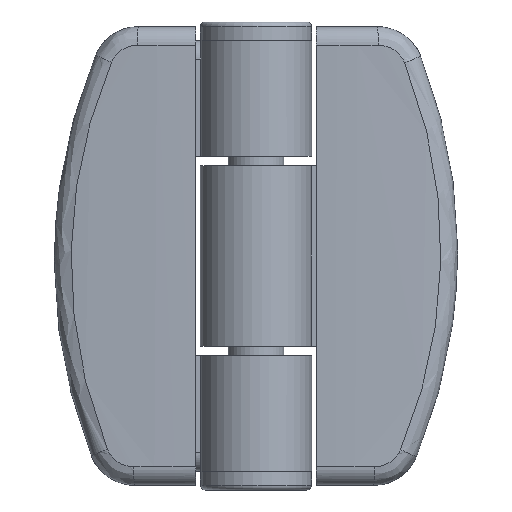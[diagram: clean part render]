
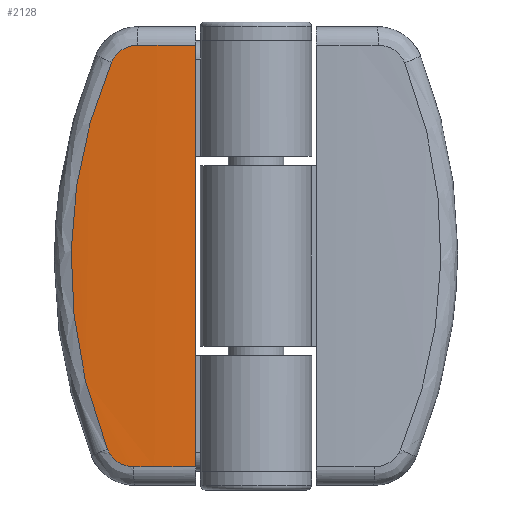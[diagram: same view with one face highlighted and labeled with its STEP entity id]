
A CAD part, left-side view. The second image highlights one B-rep face of the part: STEP entity #2128.
In plain terms, the highlighted cylindrical face has radius 117.52 mm (diameter 235.04 mm), a partial arc.
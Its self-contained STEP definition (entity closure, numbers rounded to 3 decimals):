
#126=CYLINDRICAL_SURFACE('',#2341,117.52);
#233=CIRCLE('',#2340,117.52);
#234=CIRCLE('',#2342,117.52);
#296=B_SPLINE_CURVE_WITH_KNOTS('',3,(#3962,#3963,#3964,#3965,#3966),
 .UNSPECIFIED.,.F.,.F.,(4,1,4),(1.533,1.684,1.886),
 .UNSPECIFIED.);
#298=B_SPLINE_CURVE_WITH_KNOTS('',3,(#3979,#3980,#3981,#3982,#3983,#3984),
 .UNSPECIFIED.,.F.,.F.,(4,1,1,4),(-4.933,-3.709,-2.486,
-0.651),.UNSPECIFIED.);
#299=B_SPLINE_CURVE_WITH_KNOTS('',3,(#3986,#3987,#3988,#3989,#3990),
 .UNSPECIFIED.,.F.,.F.,(4,1,4),(0.,0.205,0.359),
 .UNSPECIFIED.);
#398=FACE_OUTER_BOUND('',#554,.T.);
#554=EDGE_LOOP('',(#1832,#1833,#1834,#1835,#1836,#1837));
#696=LINE('',#3918,#836);
#836=VECTOR('',#2836,45.5);
#1042=VERTEX_POINT('',#3906);
#1043=VERTEX_POINT('',#3917);
#1047=VERTEX_POINT('',#3959);
#1048=VERTEX_POINT('',#3961);
#1050=VERTEX_POINT('',#3978);
#1051=VERTEX_POINT('',#3985);
#1311=EDGE_CURVE('',#1043,#1042,#696,.T.);
#1316=EDGE_CURVE('',#1047,#1048,#296,.T.);
#1320=EDGE_CURVE('',#1048,#1042,#233,.T.);
#1321=EDGE_CURVE('',#1050,#1047,#298,.T.);
#1322=EDGE_CURVE('',#1051,#1050,#299,.T.);
#1323=EDGE_CURVE('',#1043,#1051,#234,.T.);
#1832=ORIENTED_EDGE('',*,*,#1320,.F.);
#1833=ORIENTED_EDGE('',*,*,#1316,.F.);
#1834=ORIENTED_EDGE('',*,*,#1321,.F.);
#1835=ORIENTED_EDGE('',*,*,#1322,.F.);
#1836=ORIENTED_EDGE('',*,*,#1323,.F.);
#1837=ORIENTED_EDGE('',*,*,#1311,.T.);
#2128=ADVANCED_FACE('',(#398),#126,.T.);
#2340=AXIS2_PLACEMENT_3D('',#3976,#2847,#2848);
#2341=AXIS2_PLACEMENT_3D('',#3977,#2849,#2850);
#2342=AXIS2_PLACEMENT_3D('',#3991,#2851,#2852);
#2836=DIRECTION('',(-1.,0.,0.));
#2847=DIRECTION('center_axis',(-1.,0.,0.));
#2848=DIRECTION('ref_axis',(0.,-0.014,1.));
#2849=DIRECTION('center_axis',(-1.,0.,0.));
#2850=DIRECTION('ref_axis',(0.,0.013,1.));
#2851=DIRECTION('center_axis',(1.,0.,0.));
#2852=DIRECTION('ref_axis',(0.,-0.015,1.));
#3906=CARTESIAN_POINT('',(-46.5,-6.5,6.6));
#3917=CARTESIAN_POINT('',(-1.,-6.5,6.6));
#3918=CARTESIAN_POINT('',(1.,-6.5,6.6));
#3959=CARTESIAN_POINT('',(-44.656,-15.592,6.363));
#3961=CARTESIAN_POINT('',(-46.5,-12.776,6.511));
#3962=CARTESIAN_POINT('Ctrl Pts',(-44.656,-15.592,6.363));
#3963=CARTESIAN_POINT('Ctrl Pts',(-45.121,-15.395,6.375));
#3964=CARTESIAN_POINT('Ctrl Pts',(-46.09,-14.65,6.423));
#3965=CARTESIAN_POINT('Ctrl Pts',(-46.5,-13.459,6.484));
#3966=CARTESIAN_POINT('Ctrl Pts',(-46.5,-12.776,6.511));
#3976=CARTESIAN_POINT('Origin',(-46.5,-7.981,-110.911));
#3977=CARTESIAN_POINT('Origin',(1.,-7.981,-110.911));
#3978=CARTESIAN_POINT('',(-2.901,-16.029,6.334));
#3979=CARTESIAN_POINT('Ctrl Pts',(-2.901,-16.029,6.334));
#3980=CARTESIAN_POINT('Ctrl Pts',(-6.694,-17.547,6.229));
#3981=CARTESIAN_POINT('Ctrl Pts',(-14.61,-19.732,6.025));
#3982=CARTESIAN_POINT('Ctrl Pts',(-28.956,-20.389,5.948));
#3983=CARTESIAN_POINT('Ctrl Pts',(-39.013,-17.989,6.207));
#3984=CARTESIAN_POINT('Ctrl Pts',(-44.656,-15.592,6.363));
#3985=CARTESIAN_POINT('',(-1.,-13.189,6.494));
#3986=CARTESIAN_POINT('Ctrl Pts',(-1.,-13.189,6.494));
#3987=CARTESIAN_POINT('Ctrl Pts',(-1.,-13.884,6.463));
#3988=CARTESIAN_POINT('Ctrl Pts',(-1.425,-15.095,6.397));
#3989=CARTESIAN_POINT('Ctrl Pts',(-2.424,-15.837,6.347));
#3990=CARTESIAN_POINT('Ctrl Pts',(-2.901,-16.029,6.334));
#3991=CARTESIAN_POINT('Origin',(-1.,-7.981,-110.911));
